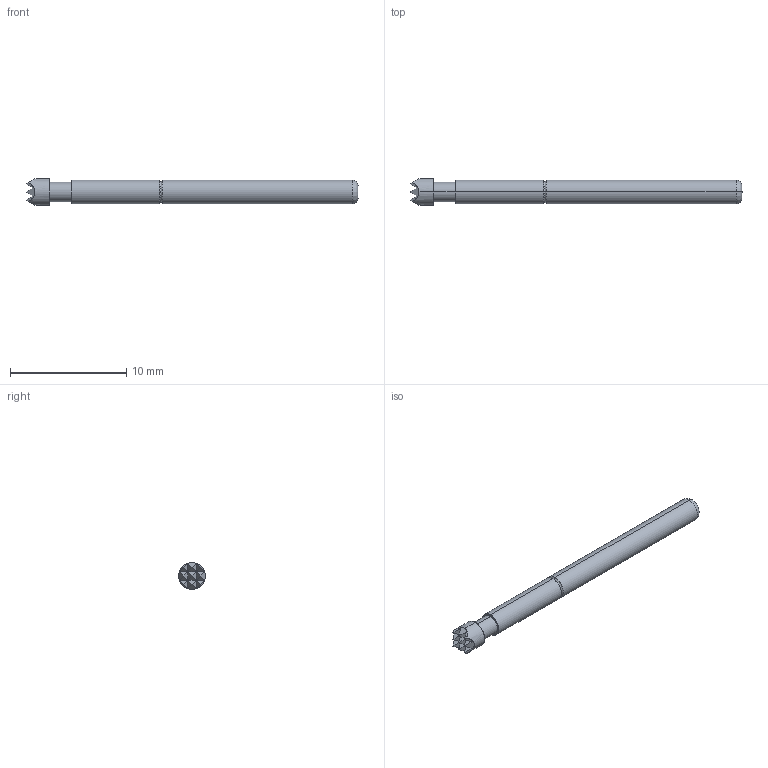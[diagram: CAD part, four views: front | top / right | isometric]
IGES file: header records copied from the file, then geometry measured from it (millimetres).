
Start section: SolidWorks IGES file using analytic representation for surfaces
Global section: file name: O:\PYLON\IGES FILES\P2665\P2665G-1W1S REC'D.IGS; native system: SolidWorks 2015; preprocessor: SolidWorks 2015; author: kgolden; date: 171019.140025; units: inch
Bounding box: 28.52 x 2.29 x 2.29 mm (x, y, z)
Surface area: 200.2 mm2 (no closed solid volume)
Topology: 0 solids, 0 shells, 47 faces, 318 edges, 318 vertices
Faces by surface type: bspline 37, revolution 10
